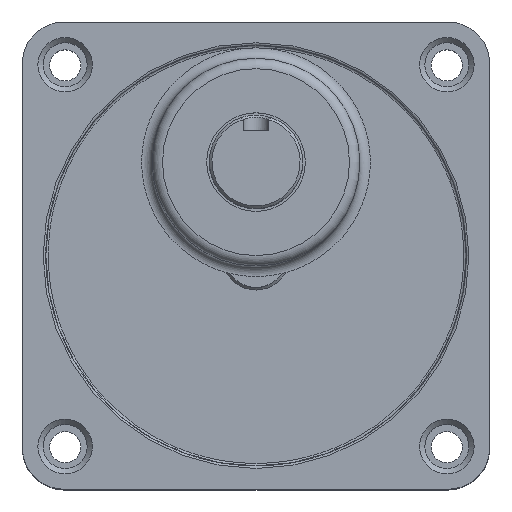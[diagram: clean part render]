
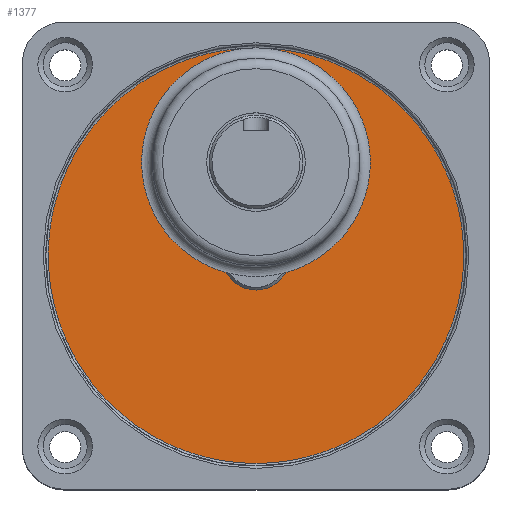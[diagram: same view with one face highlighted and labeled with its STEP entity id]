
A CAD part, top view. The second image highlights one B-rep face of the part: STEP entity #1377.
In plain terms, the highlighted planar face has unit normal (0, 0, -1).
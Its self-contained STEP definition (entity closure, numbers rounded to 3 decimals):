
#19=FACE_BOUND('',#181,.T.);
#58=PLANE('',#1494);
#101=FACE_OUTER_BOUND('',#180,.T.);
#180=EDGE_LOOP('',(#990));
#181=EDGE_LOOP('',(#991));
#506=CIRCLE('',#1491,6.5);
#508=CIRCLE('',#1495,41.75);
#604=VERTEX_POINT('',#2412);
#606=VERTEX_POINT('',#2420);
#751=EDGE_CURVE('',#604,#604,#506,.T.);
#754=EDGE_CURVE('',#606,#606,#508,.T.);
#990=ORIENTED_EDGE('',*,*,#754,.T.);
#991=ORIENTED_EDGE('',*,*,#751,.F.);
#1377=ADVANCED_FACE('',(#101,#19),#58,.F.);
#1491=AXIS2_PLACEMENT_3D('',#2414,#1707,#1708);
#1494=AXIS2_PLACEMENT_3D('',#2419,#1714,#1715);
#1495=AXIS2_PLACEMENT_3D('',#2421,#1716,#1717);
#1707=DIRECTION('center_axis',(0.,0.,-1.));
#1708=DIRECTION('ref_axis',(1.,0.,0.));
#1714=DIRECTION('center_axis',(0.,0.,1.));
#1715=DIRECTION('ref_axis',(1.,0.,0.));
#1716=DIRECTION('center_axis',(0.,0.,-1.));
#1717=DIRECTION('ref_axis',(1.,0.,0.));
#2412=CARTESIAN_POINT('',(-6.5,0.,3.5));
#2414=CARTESIAN_POINT('Origin',(0.,0.,3.5));
#2419=CARTESIAN_POINT('Origin',(0.,0.,3.5));
#2420=CARTESIAN_POINT('',(-41.75,0.,3.5));
#2421=CARTESIAN_POINT('Origin',(0.,0.,3.5));
